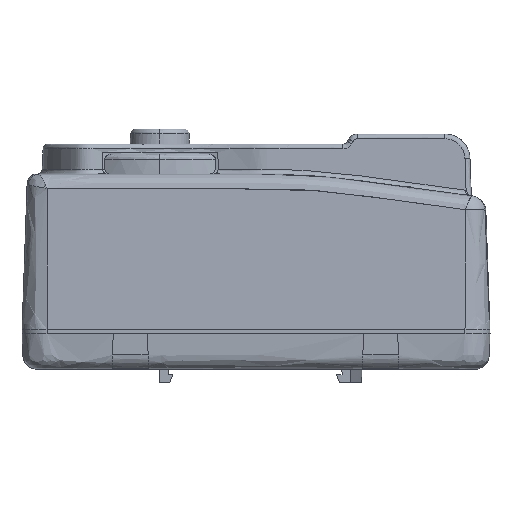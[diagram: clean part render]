
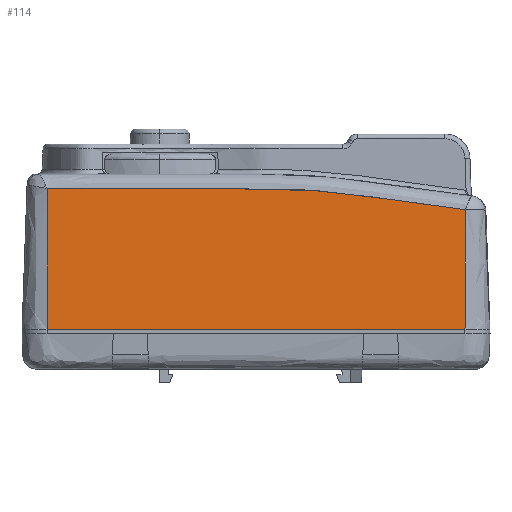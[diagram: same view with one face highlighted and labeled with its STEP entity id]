
A CAD part, left-side view. The second image highlights one B-rep face of the part: STEP entity #114.
In plain terms, the highlighted planar face has unit normal (-0.999, 0, 0.035).
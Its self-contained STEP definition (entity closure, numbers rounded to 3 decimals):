
#114=ADVANCED_FACE('',(#371),#4336,.T.);
#371=FACE_OUTER_BOUND('',#638,.T.);
#638=EDGE_LOOP('',(#1250,#1251,#1252,#1253));
#1250=ORIENTED_EDGE('',*,*,#2417,.F.);
#1251=ORIENTED_EDGE('',*,*,#2491,.T.);
#1252=ORIENTED_EDGE('',*,*,#2416,.F.);
#1253=ORIENTED_EDGE('',*,*,#2707,.F.);
#2416=EDGE_CURVE('',#3968,#3967,#3662,.T.);
#2417=EDGE_CURVE('',#3894,#3891,#3158,.T.);
#2491=EDGE_CURVE('',#3894,#3967,#3687,.T.);
#2707=EDGE_CURVE('',#3891,#3968,#3752,.T.);
#3158=B_SPLINE_CURVE_WITH_KNOTS('',1,(#22981,#22982),.UNSPECIFIED.,.F.,.F.,
(2,2),(0.,83.486),.UNSPECIFIED.);
#3662=(
BOUNDED_CURVE()
B_SPLINE_CURVE(3,(#22914,#22915,#22916,#22917,#22918,#22919,#22920,#22921,
#22922,#22923,#22924,#22925,#22926,#22927,#22928,#22929,#22930,#22931,#22932,
#22933,#22934,#22935,#22936,#22937,#22938,#22939,#22940,#22941,#22942,#22943,
#22944,#22945,#22946,#22947,#22948,#22949,#22950,#22951,#22952,#22953,#22954,
#22955,#22956,#22957,#22958,#22959,#22960,#22961,#22962,#22963,#22964,#22965,
#22966,#22967,#22968,#22969,#22970,#22971,#22972,#22973,#22974,#22975,#22976,
#22977,#22978,#22979,#22980),.UNSPECIFIED.,.F.,.F.)
B_SPLINE_CURVE_WITH_KNOTS((4,3,3,3,3,3,3,3,3,3,3,3,3,3,3,3,3,3,3,3,3,3,4),
(3.985,22.374,45.83,46.61,47.391,
47.814,48.237,48.441,48.645,49.381,
50.117,52.692,55.268,57.67,60.072,
63.326,66.58,73.495,76.883,80.272,
83.426,86.58,87.726),.UNSPECIFIED.)
CURVE()
GEOMETRIC_REPRESENTATION_ITEM()
RATIONAL_B_SPLINE_CURVE((1.,1.,1.,1.,
1.,1.,1.,1.,1.,
1.,1.,1.,1.,1.,
1.,1.,1.,1.,1.,
1.,1.,1.,1.,1.,
1.,1.,1.,1.,1.,
1.,1.,1.,1.,1.,
1.,1.,1.,1.,1.,
1.,1.,1.,1.,1.,
1.,1.,1.,1.,1.,
1.,1.,1.,1.,1.,
1.,1.,1.,1.,1.,
1.,1.,1.,1.,1.,
1.,1.,1.))
REPRESENTATION_ITEM('')
);
#3687=(
BOUNDED_CURVE()
B_SPLINE_CURVE(3,(#23530,#23531,#23532,#23533),.UNSPECIFIED.,.F.,.F.)
B_SPLINE_CURVE_WITH_KNOTS((4,4),(-26.242,-2.327),
 .UNSPECIFIED.)
CURVE()
GEOMETRIC_REPRESENTATION_ITEM()
RATIONAL_B_SPLINE_CURVE((1.,1.,1.,1.))
REPRESENTATION_ITEM('')
);
#3752=(
BOUNDED_CURVE()
B_SPLINE_CURVE(3,(#25985,#25986,#25987,#25988,#25989,#25990,#25991),
 .UNSPECIFIED.,.F.,.F.)
B_SPLINE_CURVE_WITH_KNOTS((4,3,4),(0.174,28.31,28.311),
 .UNSPECIFIED.)
CURVE()
GEOMETRIC_REPRESENTATION_ITEM()
RATIONAL_B_SPLINE_CURVE((1.,1.,1.,1.,1.,1.,1.))
REPRESENTATION_ITEM('')
);
#3891=VERTEX_POINT('',#20419);
#3894=VERTEX_POINT('',#20422);
#3967=VERTEX_POINT('',#20495);
#3968=VERTEX_POINT('',#20496);
#4336=PLANE('',#4680);
#4680=AXIS2_PLACEMENT_3D('',#19024,#4757,$);
#4757=DIRECTION('',(-0.999,0.,0.035));
#19024=CARTESIAN_POINT('',(-27.01,-69.276,9.34));
#20419=CARTESIAN_POINT('',(-26.911,22.638,12.152));
#20422=CARTESIAN_POINT('',(-26.911,-60.848,12.152));
#20495=CARTESIAN_POINT('',(-26.077,-60.919,36.035));
#20496=CARTESIAN_POINT('',(-25.93,22.561,40.257));
#22914=CARTESIAN_POINT('',(-25.93,22.561,40.257));
#22915=CARTESIAN_POINT('',(-25.93,16.432,40.257));
#22916=CARTESIAN_POINT('',(-25.93,10.303,40.257));
#22917=CARTESIAN_POINT('',(-25.93,4.173,40.257));
#22918=CARTESIAN_POINT('',(-25.93,-3.646,40.257));
#22919=CARTESIAN_POINT('',(-25.93,-11.464,40.257));
#22920=CARTESIAN_POINT('',(-25.93,-19.283,40.257));
#22921=CARTESIAN_POINT('',(-25.93,-19.543,40.257));
#22922=CARTESIAN_POINT('',(-25.93,-19.803,40.257));
#22923=CARTESIAN_POINT('',(-25.93,-20.064,40.257));
#22924=CARTESIAN_POINT('',(-25.93,-20.324,40.257));
#22925=CARTESIAN_POINT('',(-25.93,-20.584,40.257));
#22926=CARTESIAN_POINT('',(-25.93,-20.844,40.257));
#22927=CARTESIAN_POINT('',(-25.93,-20.985,40.257));
#22928=CARTESIAN_POINT('',(-25.93,-21.126,40.257));
#22929=CARTESIAN_POINT('',(-25.93,-21.267,40.257));
#22930=CARTESIAN_POINT('',(-25.93,-21.408,40.257));
#22931=CARTESIAN_POINT('',(-25.93,-21.549,40.257));
#22932=CARTESIAN_POINT('',(-25.93,-21.69,40.257));
#22933=CARTESIAN_POINT('',(-25.93,-21.758,40.257));
#22934=CARTESIAN_POINT('',(-25.93,-21.827,40.257));
#22935=CARTESIAN_POINT('',(-25.93,-21.895,40.257));
#22936=CARTESIAN_POINT('',(-25.93,-21.963,40.257));
#22937=CARTESIAN_POINT('',(-25.93,-22.031,40.257));
#22938=CARTESIAN_POINT('',(-25.93,-22.099,40.257));
#22939=CARTESIAN_POINT('',(-25.93,-22.344,40.256));
#22940=CARTESIAN_POINT('',(-25.93,-22.589,40.255));
#22941=CARTESIAN_POINT('',(-25.93,-22.835,40.253));
#22942=CARTESIAN_POINT('',(-25.93,-23.08,40.251));
#22943=CARTESIAN_POINT('',(-25.93,-23.325,40.248));
#22944=CARTESIAN_POINT('',(-25.93,-23.571,40.244));
#22945=CARTESIAN_POINT('',(-25.931,-24.429,40.23));
#22946=CARTESIAN_POINT('',(-25.932,-25.287,40.205));
#22947=CARTESIAN_POINT('',(-25.933,-26.145,40.17));
#22948=CARTESIAN_POINT('',(-25.934,-27.002,40.135));
#22949=CARTESIAN_POINT('',(-25.936,-27.86,40.09));
#22950=CARTESIAN_POINT('',(-25.938,-28.716,40.037));
#22951=CARTESIAN_POINT('',(-25.939,-29.515,39.987));
#22952=CARTESIAN_POINT('',(-25.941,-30.314,39.929));
#22953=CARTESIAN_POINT('',(-25.944,-31.112,39.865));
#22954=CARTESIAN_POINT('',(-25.946,-31.91,39.8));
#22955=CARTESIAN_POINT('',(-25.948,-32.708,39.73));
#22956=CARTESIAN_POINT('',(-25.951,-33.505,39.653));
#22957=CARTESIAN_POINT('',(-25.955,-34.585,39.549));
#22958=CARTESIAN_POINT('',(-25.959,-35.663,39.435));
#22959=CARTESIAN_POINT('',(-25.963,-36.741,39.312));
#22960=CARTESIAN_POINT('',(-25.967,-37.819,39.189));
#22961=CARTESIAN_POINT('',(-25.972,-38.895,39.058));
#22962=CARTESIAN_POINT('',(-25.977,-39.971,38.921));
#22963=CARTESIAN_POINT('',(-25.987,-42.258,38.63));
#22964=CARTESIAN_POINT('',(-25.998,-44.541,38.311));
#22965=CARTESIAN_POINT('',(-26.009,-46.822,37.984));
#22966=CARTESIAN_POINT('',(-26.015,-47.94,37.824));
#22967=CARTESIAN_POINT('',(-26.021,-49.058,37.662));
#22968=CARTESIAN_POINT('',(-26.026,-50.176,37.5));
#22969=CARTESIAN_POINT('',(-26.032,-51.294,37.338));
#22970=CARTESIAN_POINT('',(-26.038,-52.412,37.177));
#22971=CARTESIAN_POINT('',(-26.043,-53.531,37.019));
#22972=CARTESIAN_POINT('',(-26.048,-54.571,36.871));
#22973=CARTESIAN_POINT('',(-26.053,-55.613,36.726));
#22974=CARTESIAN_POINT('',(-26.058,-56.654,36.585));
#22975=CARTESIAN_POINT('',(-26.063,-57.696,36.443));
#22976=CARTESIAN_POINT('',(-26.068,-58.739,36.306));
#22977=CARTESIAN_POINT('',(-26.073,-59.782,36.175));
#22978=CARTESIAN_POINT('',(-26.074,-60.161,36.128));
#22979=CARTESIAN_POINT('',(-26.076,-60.54,36.081));
#22980=CARTESIAN_POINT('',(-26.077,-60.919,36.035));
#22981=CARTESIAN_POINT('',(-26.911,-60.848,12.152));
#22982=CARTESIAN_POINT('',(-26.911,22.638,12.152));
#23530=CARTESIAN_POINT('',(-26.911,-60.848,12.152));
#23531=CARTESIAN_POINT('',(-26.633,-60.872,20.113));
#23532=CARTESIAN_POINT('',(-26.355,-60.896,28.074));
#23533=CARTESIAN_POINT('',(-26.077,-60.919,36.035));
#25985=CARTESIAN_POINT('',(-26.911,22.638,12.152));
#25986=CARTESIAN_POINT('',(-26.584,22.612,21.52));
#25987=CARTESIAN_POINT('',(-26.257,22.587,30.888));
#25988=CARTESIAN_POINT('',(-25.93,22.561,40.256));
#25989=CARTESIAN_POINT('',(-25.93,22.561,40.256));
#25990=CARTESIAN_POINT('',(-25.93,22.561,40.257));
#25991=CARTESIAN_POINT('',(-25.93,22.561,40.257));
